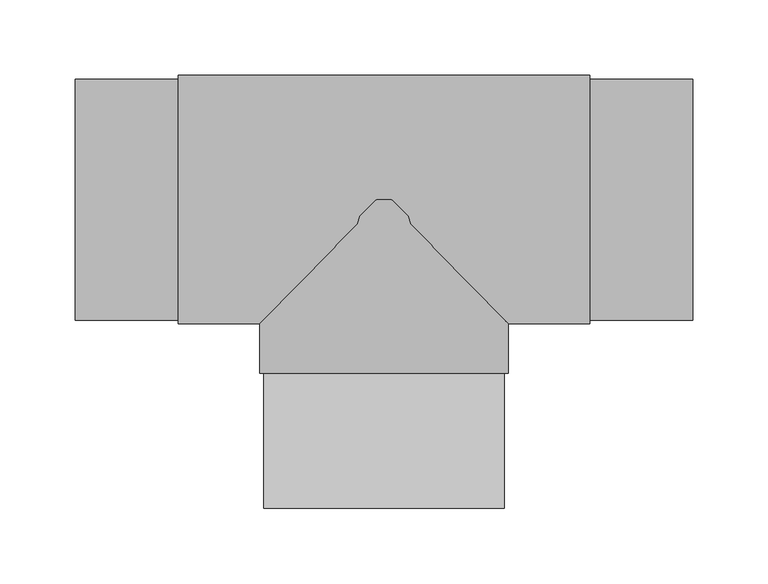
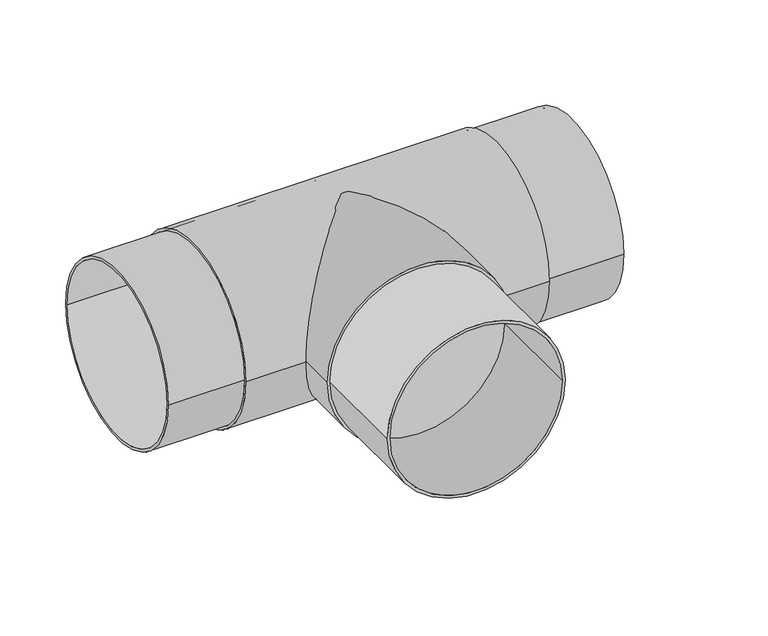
"""IFC4 building model written with IfcOpenShell, lengths in millimetres: pipe fitting geometry, EGB_VASEN_ PPR_Te a tope WXRB300_Te reducida a tope WXRB310 : Te a tope."""

import ifcopenshell
import ifcopenshell.guid

model = None  # the IFC model being written
_history = None  # IfcOwnerHistory: only IFC2X3 demands one
_inside = {}  # id of a spatial element -> (the spatial element, [elements in it])
_under = {}  # id of a project, library or spatial element -> (it, [spatial elements below it])
_declared = {}  # id of a project -> (the project, [libraries it declares])
_typed = {}  # id of a type object -> (the type object, [elements of that type])
_made_of = {}  # id of a material, layer set ... -> (it, [elements and type objects made of it])


def new_model(schema):
    """Start an empty IFC model of exactly this schema.

    Asked for "IFC4X3", IfcOpenShell would pick the latest addendum, in which some entities
    have other attributes; the version numbers below select the first issue.
    IFC2X3 requires an IfcOwnerHistory on every rooted entity: one is made here for all.
    """
    global model, _history
    if schema == "IFC4X3":
        model = ifcopenshell.file(schema_version=(4, 3, 0, 0))
    else:
        model = ifcopenshell.file(schema=schema)
    _inside.clear()
    _under.clear()
    _declared.clear()
    _typed.clear()
    _made_of.clear()
    _history = None
    if model.schema == "IFC2X3":
        org = make("IfcOrganization", Name="unknown")
        user = make(
            "IfcPersonAndOrganization",
            ThePerson=make("IfcPerson", FamilyName="unknown"),
            TheOrganization=org,
        )
        app = make(
            "IfcApplication",
            ApplicationDeveloper=org,
            Version="unknown",
            ApplicationFullName="unknown",
            ApplicationIdentifier="unknown",
        )
        _history = make(
            "IfcOwnerHistory",
            OwningUser=user,
            OwningApplication=app,
            ChangeAction="ADDED",
            CreationDate=0,
        )
    return model


def make(cls, **values):
    """One entity of the class cls with the attributes given. An attribute that is None is left unset."""
    return model.create_entity(
        cls, **{name: value for name, value in values.items() if value is not None}
    )


def rooted(cls, **values):
    """An entity with a GlobalId (a new one), such as an element, a storey or a relation."""
    return make(cls, GlobalId=ifcopenshell.guid.new(), OwnerHistory=_history, **values)


def si_unit(unit_type, name, prefix=None):
    """IfcSIUnit, for example si_unit("LENGTHUNIT", "METRE", prefix="MILLI")."""
    return make("IfcSIUnit", UnitType=unit_type, Prefix=prefix, Name=name)


def assignment(units):
    """IfcUnitAssignment: the units of a project."""
    return None if units is None else make("IfcUnitAssignment", Units=units)


def point(xyz):
    """IfcCartesianPoint."""
    return None if xyz is None else make("IfcCartesianPoint", Coordinates=xyz)


def direction(xyz):
    """IfcDirection."""
    return None if xyz is None else make("IfcDirection", DirectionRatios=xyz)


def frame(location, z_axis=None, x_axis=None):
    """IfcAxis2Placement3D, a coordinate frame: its origin and axes. An axis left out is left unset."""
    return make(
        "IfcAxis2Placement3D",
        Location=point(location),
        Axis=direction(z_axis),
        RefDirection=direction(x_axis),
    )


def frame_2d(location, x_axis=None):
    """IfcAxis2Placement2D, a coordinate frame in the plane: its origin and x axis."""
    return make(
        "IfcAxis2Placement2D", Location=point(location), RefDirection=direction(x_axis)
    )


def origin():
    """The frame at (0, 0, 0) with its axes left unset."""
    return frame((0.0, 0.0, 0.0))


def origin_2d():
    """The frame at (0, 0) in the plane with its x axis left unset."""
    return frame_2d((0.0, 0.0))


def place(relative_to, where):
    """IfcLocalPlacement: puts the frame where relative to a parent placement (None: the world)."""
    return make(
        "IfcLocalPlacement", PlacementRelTo=relative_to, RelativePlacement=where
    )


def context(
    kind, dimensions, precision=None, world=None, true_north=None, identifier=None
):
    """IfcGeometricRepresentationContext, for example the 3D "Model" context."""
    return make(
        "IfcGeometricRepresentationContext",
        ContextIdentifier=identifier,
        ContextType=kind,
        CoordinateSpaceDimension=dimensions,
        Precision=precision,
        WorldCoordinateSystem=world,
        TrueNorth=true_north,
    )


def project(units=None, contexts=None):
    """IfcProject with its units and contexts."""
    return rooted(
        "IfcProject",
        Name="project",
        RepresentationContexts=contexts,
        UnitsInContext=assignment(units),
    )


def spatial(cls, under=None, at=None, **own):
    """A site, building, storey or space (cls), placed at a placement, below another one or the project."""
    s = rooted(cls, ObjectPlacement=at, **own)
    if under is not None:
        _under.setdefault(under.id(), (under, []))[1].append(s)
    return s


def circle_curve(where, radius):
    """IfcCircle in the frame where."""
    return make("IfcCircle", Position=where, Radius=radius)


def trimmed(basis, trim1, trim2, sense, master):
    """IfcTrimmedCurve: the piece of a basis curve between two trims."""
    return make(
        "IfcTrimmedCurve",
        BasisCurve=basis,
        Trim1=trim1,
        Trim2=trim2,
        SenseAgreement=sense,
        MasterRepresentation=master,
    )


def segment(curve, same_sense, transition):
    """IfcCompositeCurveSegment."""
    return make(
        "IfcCompositeCurveSegment",
        Transition=transition,
        SameSense=same_sense,
        ParentCurve=curve,
    )


def composite_curve(segments, self_intersect=None):
    """IfcCompositeCurve: segments joined end to end."""
    return make("IfcCompositeCurve", Segments=segments, SelfIntersect=self_intersect)


def outline(outer, holes=None, kind="AREA"):
    """IfcArbitraryClosedProfileDef: a profile drawn as a closed curve; with holes, ...WithVoids."""
    if holes is None:
        return make("IfcArbitraryClosedProfileDef", ProfileType=kind, OuterCurve=outer)
    return make(
        "IfcArbitraryProfileDefWithVoids",
        ProfileType=kind,
        OuterCurve=outer,
        InnerCurves=holes,
    )


def extrude(swept, where, along, depth):
    """IfcExtrudedAreaSolid: the profile swept, set in the frame where, extruded along a direction by depth."""
    return make(
        "IfcExtrudedAreaSolid",
        SweptArea=swept,
        Position=where,
        ExtrudedDirection=direction(along),
        Depth=depth,
    )


def shape(context_of_items, identifier, shape_type, items):
    """IfcShapeRepresentation: the items that make up one representation, for example the "Body"."""
    return make(
        "IfcShapeRepresentation",
        ContextOfItems=context_of_items,
        RepresentationIdentifier=identifier,
        RepresentationType=shape_type,
        Items=items,
    )


def source(mapping_origin, context_of_items, identifier, shape_type, items):
    """IfcRepresentationMap: a shape defined once, which mapped items show again and again."""
    return make(
        "IfcRepresentationMap",
        MappingOrigin=mapping_origin,
        MappedRepresentation=shape(context_of_items, identifier, shape_type, items),
    )


def transform(
    local_origin,
    x_axis=None,
    y_axis=None,
    z_axis=None,
    scale=None,
    scale2=None,
    scale3=None,
    uniform=True,
):
    """IfcCartesianTransformationOperator3D, or its non-uniform kind. x_axis, y_axis, z_axis: its Axis1, 2, 3."""
    if uniform:
        return make(
            "IfcCartesianTransformationOperator3D",
            Axis1=direction(x_axis),
            Axis2=direction(y_axis),
            LocalOrigin=point(local_origin),
            Scale=scale,
            Axis3=direction(z_axis),
        )
    return make(
        "IfcCartesianTransformationOperator3DnonUniform",
        Axis1=direction(x_axis),
        Axis2=direction(y_axis),
        LocalOrigin=point(local_origin),
        Scale=scale,
        Axis3=direction(z_axis),
        Scale2=scale2,
        Scale3=scale3,
    )


def mapped(mapping_source, mapping_target):
    """IfcMappedItem: shows the shape of a source again, moved by a transform."""
    return make(
        "IfcMappedItem", MappingSource=mapping_source, MappingTarget=mapping_target
    )


def made_of(thing, what):
    """Note that an element or type object is made of a material, layer set ...; save() writes the relation."""
    if what is not None:
        _made_of.setdefault(what.id(), (what, []))[1].append(thing)
    return thing


def element(
    cls,
    number,
    at=None,
    inside=None,
    cuts=None,
    type_object=None,
    material=None,
    context=None,
    identifier="Body",
    shape_type=None,
    held_by="IfcProductDefinitionShape",
    body=None,
    shapes=None,
    **own,
):
    """One element of the class cls, such as IfcWall. Its Tag is "e" and its number.

    at: its placement. inside: the storey or other place that contains it. cuts: it is an
    opening in that element (IfcRelVoidsElement). A single representation is given by context,
    identifier, shape_type and body (its items); several are given by shapes. held_by: the class
    of the entity that holds the representations. save() writes the other relations.
    """
    e = rooted(cls, Tag="e%d" % number, ObjectPlacement=at, **own)
    if body is not None:
        shapes = [shape(context, identifier, shape_type, body)]
    if shapes is not None:
        e.Representation = make(held_by, Representations=shapes)
    if inside is not None:
        _inside.setdefault(inside.id(), (inside, []))[1].append(e)
    if cuts is not None:
        rooted(
            "IfcRelVoidsElement", RelatingBuildingElement=cuts, RelatedOpeningElement=e
        )
    if type_object is not None:
        _typed.setdefault(type_object.id(), (type_object, []))[1].append(e)
    return made_of(e, material)


def aggregate(whole, parts):
    """IfcRelAggregates: a whole, such as a stair, and the parts it consists of."""
    return rooted("IfcRelAggregates", RelatingObject=whole, RelatedObjects=parts)


def save(model, path):
    """Write the relations noted so far, then the file.

    IfcRelAggregates (storeys below a building ...), IfcRelContainedInSpatialStructure (elements
    in a storey), IfcRelDefinesByType, IfcRelAssociatesMaterial and IfcRelDeclares: one each for
    every whole, place, type object, material and project.
    """
    for whole, parts in _under.values():
        aggregate(whole, parts)
    for where, things in _inside.values():
        rooted(
            "IfcRelContainedInSpatialStructure",
            RelatedElements=things,
            RelatingStructure=where,
        )
    for kind, things in _typed.values():
        rooted("IfcRelDefinesByType", RelatedObjects=things, RelatingType=kind)
    for what, things in _made_of.values():
        rooted("IfcRelAssociatesMaterial", RelatedObjects=things, RelatingMaterial=what)
    for by, libraries in _declared.values():
        rooted("IfcRelDeclares", RelatingContext=by, RelatedDefinitions=libraries)
    model.write(path)


def pipe_fitting_51023c9c(model_context):
    return source(origin(), model_context, "Body", "SweptSolid", [
        extrude(outline(composite_curve([segment(trimmed(circle_curve(origin_2d(), 80.0), [point((0.0, 80.0))], [point((0.0, -80.0))], False, "CARTESIAN"), True, "CONTINUOUS"), segment(trimmed(circle_curve(origin_2d(), 80.0), [point((0.0, -80.0))], [point((0.0, 80.0))], False, "CARTESIAN"), True, "CONTINUOUS")], self_intersect=False), holes=[composite_curve([segment(trimmed(circle_curve(origin_2d(), 77.5), [point((0.0, 77.5))], [point((0.0, -77.5))], True, "CARTESIAN"), True, "CONTINUOUS"), segment(trimmed(circle_curve(origin_2d(), 77.5), [point((0.0, -77.5))], [point((0.0, 77.5))], True, "CARTESIAN"), True, "CONTINUOUS")], self_intersect=False)]), frame((0.0, -205.0, 0.0), z_axis=(0.0, 1.0, 0.0), x_axis=(0.0, 0.0, 1.0)), (0.0, 0.0, 1.0), 89.5),
        extrude(outline(composite_curve([segment(trimmed(circle_curve(origin_2d(), 82.5), [point((0.0, 82.5))], [point((0.0, -82.5))], False, "CARTESIAN"), True, "CONTINUOUS"), segment(trimmed(circle_curve(origin_2d(), 82.5), [point((0.0, -82.5))], [point((0.0, 82.5))], False, "CARTESIAN"), True, "CONTINUOUS")], self_intersect=False)), frame((0.0, -115.5, 0.0), z_axis=(0.0, 1.0, 0.0), x_axis=(0.0, 0.0, 1.0)), (0.0, 0.0, 1.0), 115.5),
        extrude(outline(composite_curve([segment(trimmed(circle_curve(origin_2d(), 82.5), [point((-82.5, 0.0))], [point((82.5, 0.0))], False, "CARTESIAN"), True, "CONTINUOUS"), segment(trimmed(circle_curve(origin_2d(), 82.5), [point((82.5, 0.0))], [point((-82.5, 0.0))], False, "CARTESIAN"), True, "CONTINUOUS")], self_intersect=False), holes=[composite_curve([segment(trimmed(circle_curve(origin_2d(), 80.0), [point((-80.0, 0.0))], [point((80.0, 0.0))], True, "CARTESIAN"), True, "CONTINUOUS"), segment(trimmed(circle_curve(origin_2d(), 80.0), [point((80.0, 0.0))], [point((-80.0, 0.0))], True, "CARTESIAN"), True, "CONTINUOUS")], self_intersect=False)]), frame((-136.6666667, 0.0, 0.0), z_axis=(1.0, 0.0, 0.0), x_axis=(0.0, 1.0, 0.0)), (0.0, 0.0, 1.0), 273.3333333),
        extrude(outline(composite_curve([segment(trimmed(circle_curve(origin_2d(), 80.0), [point((-80.0, 0.0))], [point((80.0, 0.0))], False, "CARTESIAN"), True, "CONTINUOUS"), segment(trimmed(circle_curve(origin_2d(), 80.0), [point((80.0, 0.0))], [point((-80.0, 0.0))], False, "CARTESIAN"), True, "CONTINUOUS")], self_intersect=False), holes=[composite_curve([segment(trimmed(circle_curve(origin_2d(), 77.5), [point((-77.5, 0.0))], [point((77.5, 0.0))], True, "CARTESIAN"), True, "CONTINUOUS"), segment(trimmed(circle_curve(origin_2d(), 77.5), [point((77.5, 0.0))], [point((-77.5, 0.0))], True, "CARTESIAN"), True, "CONTINUOUS")], self_intersect=False)]), frame((-205.0, 0.0, 0.0), z_axis=(1.0, 0.0, 0.0), x_axis=(0.0, 1.0, 0.0)), (0.0, 0.0, 1.0), 410.0),
    ])


if __name__ == "__main__":
    model = new_model("IFC4")
    model_context = context("Model", 3, world=origin())
    ifc_project = project(units=[si_unit("LENGTHUNIT", "METRE", prefix="MILLI")], contexts=[model_context])
    site = spatial("IfcSite", under=ifc_project)
    building = spatial("IfcBuilding", under=site)
    placement = place(None, origin())
    pipe_fitting_shape = pipe_fitting_51023c9c(model_context)
    element("IfcPipeFitting", 1, ObjectType="EGB_VASEN_ PPR_Te a tope WXRB300_Te reducida a tope WXRB310 : Te a tope", at=placement, inside=building, context=model_context, shape_type="MappedRepresentation", body=[
        mapped(pipe_fitting_shape, transform((0.0, 0.0, 0.0), x_axis=(1.0, 0.0, 0.0), y_axis=(0.0, 1.0, 0.0), z_axis=(0.0, 0.0, 1.0))),
    ])
    save(model, "model.ifc")
